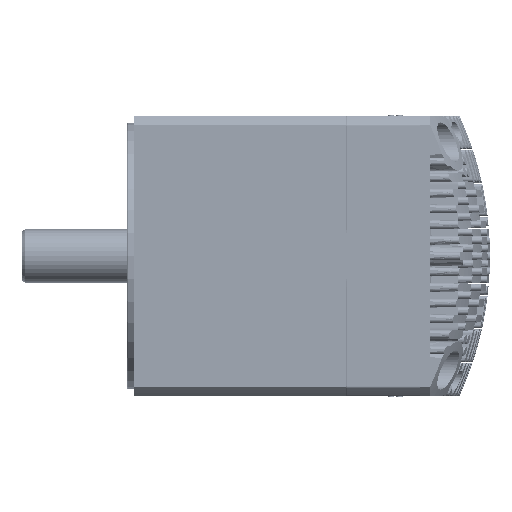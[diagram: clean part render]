
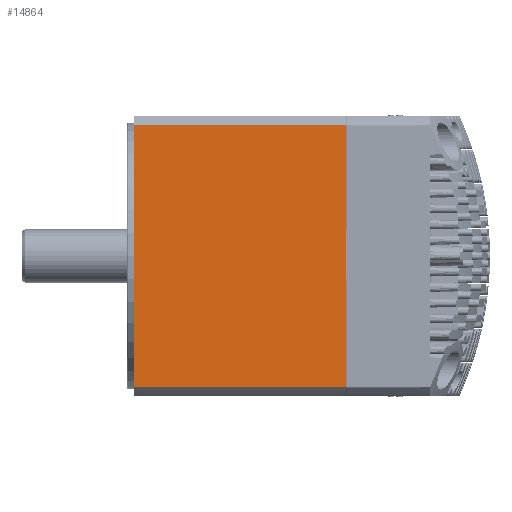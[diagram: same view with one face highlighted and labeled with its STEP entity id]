
A CAD part, front view. The second image highlights one B-rep face of the part: STEP entity #14864.
In plain terms, the highlighted planar face has unit normal (0, -1, 0).
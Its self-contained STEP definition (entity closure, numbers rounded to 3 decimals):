
#4241=DIRECTION('',(0.,0.,-1.));
#4242=VECTOR('',#4241,93.643);
#4243=CARTESIAN_POINT('',(3.5,-50.,46.821));
#4244=LINE('',#4243,#4242);
#4248=DIRECTION('',(-1.,0.,0.));
#4249=VECTOR('',#4248,75.5);
#4250=CARTESIAN_POINT('',(79.,-50.,46.821));
#4251=LINE('',#4250,#4249);
#4255=DIRECTION('',(0.,0.,-1.));
#4256=VECTOR('',#4255,93.643);
#4257=CARTESIAN_POINT('',(79.,-50.,46.821));
#4258=LINE('',#4257,#4256);
#4262=DIRECTION('',(-1.,0.,0.));
#4263=VECTOR('',#4262,75.5);
#4264=CARTESIAN_POINT('',(79.,-50.,-46.821));
#4265=LINE('',#4264,#4263);
#10357=CARTESIAN_POINT('',(79.,-50.,46.821));
#10358=CARTESIAN_POINT('',(79.,-50.,-46.821));
#10359=VERTEX_POINT('',#10357);
#10360=VERTEX_POINT('',#10358);
#10373=CARTESIAN_POINT('',(3.5,-50.,46.821));
#10374=CARTESIAN_POINT('',(3.5,-50.,-46.821));
#10375=VERTEX_POINT('',#10373);
#10376=VERTEX_POINT('',#10374);
#14853=CARTESIAN_POINT('',(0.,-50.,50.));
#14854=DIRECTION('',(0.,-1.,0.));
#14855=DIRECTION('',(0.,0.,-1.));
#14856=AXIS2_PLACEMENT_3D('',#14853,#14854,#14855);
#14857=PLANE('',#14856);
#14858=ORIENTED_EDGE('',*,*,#11608,.F.);
#14859=ORIENTED_EDGE('',*,*,#14848,.F.);
#14860=ORIENTED_EDGE('',*,*,#14752,.T.);
#14861=ORIENTED_EDGE('',*,*,#14833,.T.);
#14862=EDGE_LOOP('',(#14858,#14859,#14860,#14861));
#14863=FACE_OUTER_BOUND('',#14862,.F.);
#11608=EDGE_CURVE('',#10375,#10376,#4244,.T.);
#14752=EDGE_CURVE('',#10359,#10360,#4258,.T.);
#14833=EDGE_CURVE('',#10360,#10376,#4265,.T.);
#14848=EDGE_CURVE('',#10359,#10375,#4251,.T.);
#14864=ADVANCED_FACE('',(#14863),#14857,.T.);
